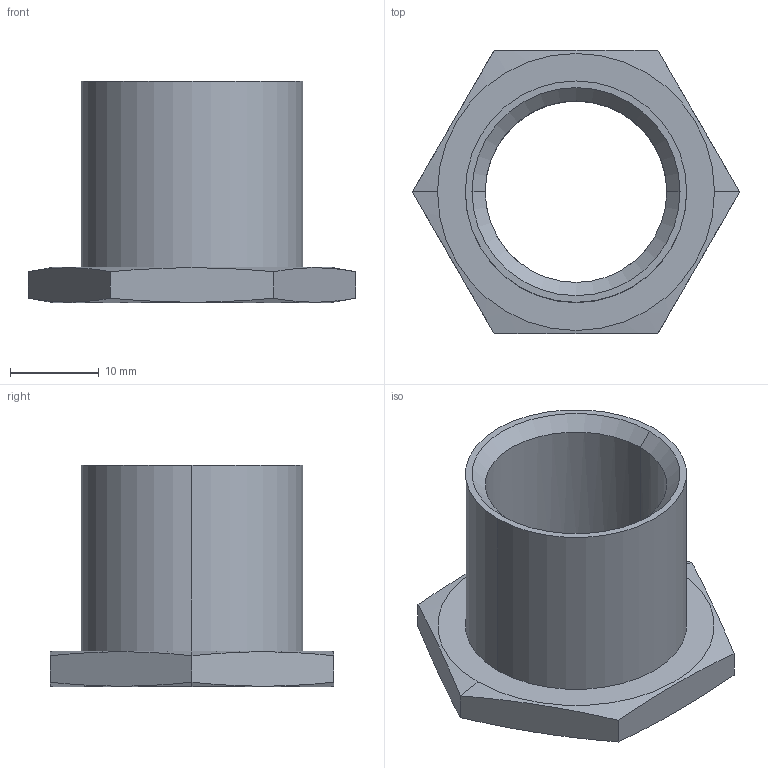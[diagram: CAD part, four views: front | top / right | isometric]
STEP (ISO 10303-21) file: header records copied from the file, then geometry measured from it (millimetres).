
FILE_DESCRIPTION (( 'STEP AP214' ), '1' );
FILE_NAME ('2.TD.002.STEP', '2024-07-11T15:04:28', ( '' ), ( '' ), 'SwSTEP 2.0', 'SolidWorks 2021', '' );
FILE_SCHEMA (( 'AUTOMOTIVE_DESIGN' ));
Length unit declared in the file: millimetre
Products named in the file (1): 2.TD.002
Bounding box: 36.95 x 32 x 25 mm (x, y, z)
Volume: 5267.3 mm3; surface area: 4941.4 mm2
Topology: 1 solids, 1 shells, 32 faces, 91 edges, 62 vertices
Faces by surface type: cylinder 11, plane 10, cone 8, bspline 3
Entity records: 2003 total; most frequent: CARTESIAN_POINT 1145, ORIENTED_EDGE 182, DIRECTION 116, EDGE_CURVE 91, VERTEX_POINT 62, AXIS2_PLACEMENT_3D 45, EDGE_LOOP 35, FACE_OUTER_BOUND 32
